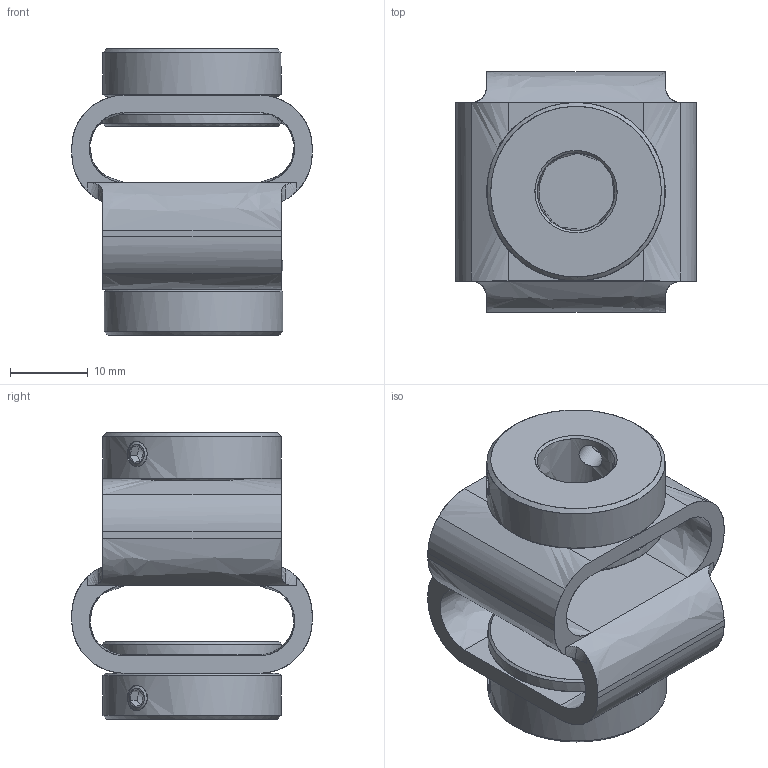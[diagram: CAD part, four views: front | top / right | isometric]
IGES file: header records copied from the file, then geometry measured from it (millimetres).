
Start section: C
Global section: file name: 11101781.igs; native system: By Siemens PLM Incorporated; preprocessor: XPlus GENERIC/IGES 23.0.61; author: Author; organization: Title; date: 20230203.080853; units: millimetre
Bounding box: 31 x 31 x 36.95 mm (x, y, z)
Surface area: 7989.7 mm2 (no closed solid volume)
Topology: 0 solids, 0 shells, 159 faces, 838 edges, 828 vertices
Faces by surface type: bspline 159
